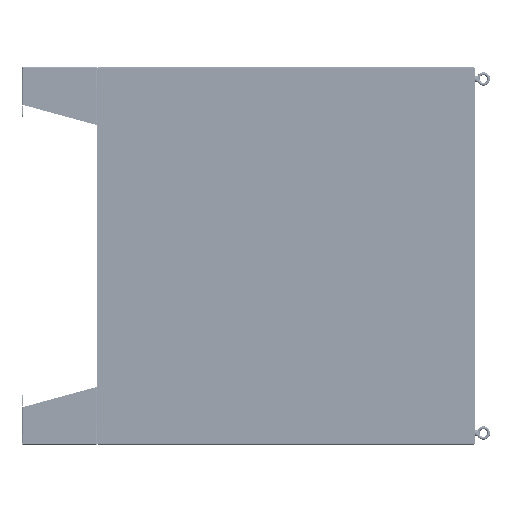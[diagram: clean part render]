
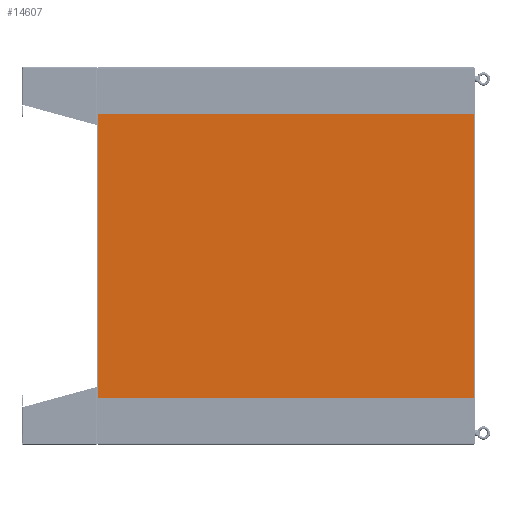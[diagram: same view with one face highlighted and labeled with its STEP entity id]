
A CAD part, left-side view. The second image highlights one B-rep face of the part: STEP entity #14607.
In plain terms, the highlighted planar face has unit normal (-1, 0, 0) as drawn and (0, 1, 0) by its records, which use the part's own axes.
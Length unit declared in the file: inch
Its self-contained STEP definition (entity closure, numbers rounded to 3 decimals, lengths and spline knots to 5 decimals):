
#14268=CARTESIAN_POINT('',(22.47,0.,29.866));
#14269=DIRECTION('',(0.,1.,0.));
#14270=DIRECTION('',(0.,0.,1.));
#14271=AXIS2_PLACEMENT_3D('',#14268,#14269,#14270);
#14276=CARTESIAN_POINT('',(-22.47,0.,29.866));
#14277=DIRECTION('',(0.,1.,0.));
#14278=DIRECTION('',(-1.,0.,0.));
#14279=AXIS2_PLACEMENT_3D('',#14276,#14277,#14278);
#14284=CARTESIAN_POINT('',(-22.47,0.,-29.866));
#14285=DIRECTION('',(0.,1.,0.));
#14286=DIRECTION('',(0.,0.,-1.));
#14287=AXIS2_PLACEMENT_3D('',#14284,#14285,#14286);
#14292=CARTESIAN_POINT('',(22.47,0.,-29.866));
#14293=DIRECTION('',(0.,1.,0.));
#14294=DIRECTION('',(1.,0.,0.));
#14295=AXIS2_PLACEMENT_3D('',#14292,#14293,#14294);
#14300=DIRECTION('',(0.,0.,-1.));
#14301=VECTOR('',#14300,59.732);
#14302=CARTESIAN_POINT('',(22.5,0.,29.866));
#14303=LINE('',#14302,#14301);
#14328=DIRECTION('',(-1.,0.,0.));
#14329=VECTOR('',#14328,44.94);
#14330=CARTESIAN_POINT('',(22.47,0.,-29.896));
#14331=LINE('',#14330,#14329);
#14370=DIRECTION('',(0.,0.,-1.));
#14371=VECTOR('',#14370,59.732);
#14372=CARTESIAN_POINT('',(-22.5,0.,29.866));
#14373=LINE('',#14372,#14371);
#14398=DIRECTION('',(-1.,0.,0.));
#14399=VECTOR('',#14398,44.94);
#14400=CARTESIAN_POINT('',(22.47,0.,29.896));
#14401=LINE('',#14400,#14399);
#14536=CARTESIAN_POINT('',(22.47,0.,29.896));
#14537=CARTESIAN_POINT('',(22.5,0.,29.866));
#14538=VERTEX_POINT('',#14536);
#14539=VERTEX_POINT('',#14537);
#14544=CARTESIAN_POINT('',(-22.5,0.,29.866));
#14545=CARTESIAN_POINT('',(-22.47,0.,29.896));
#14546=VERTEX_POINT('',#14544);
#14547=VERTEX_POINT('',#14545);
#14552=CARTESIAN_POINT('',(22.5,0.,-29.866));
#14553=CARTESIAN_POINT('',(22.47,0.,-29.896));
#14554=VERTEX_POINT('',#14552);
#14555=VERTEX_POINT('',#14553);
#14560=CARTESIAN_POINT('',(-22.47,0.,-29.896));
#14561=CARTESIAN_POINT('',(-22.5,0.,-29.866));
#14562=VERTEX_POINT('',#14560);
#14563=VERTEX_POINT('',#14561);
#14584=CARTESIAN_POINT('',(22.5,0.,29.896));
#14585=DIRECTION('',(0.,1.,0.));
#14586=DIRECTION('',(-1.,0.,0.));
#14587=AXIS2_PLACEMENT_3D('',#14584,#14585,#14586);
#14588=PLANE('',#14587);
#14590=ORIENTED_EDGE('',*,*,#14589,.F.);
#14592=ORIENTED_EDGE('',*,*,#14591,.T.);
#14594=ORIENTED_EDGE('',*,*,#14593,.F.);
#14596=ORIENTED_EDGE('',*,*,#14595,.T.);
#14598=ORIENTED_EDGE('',*,*,#14597,.F.);
#14600=ORIENTED_EDGE('',*,*,#14599,.F.);
#14602=ORIENTED_EDGE('',*,*,#14601,.F.);
#14604=ORIENTED_EDGE('',*,*,#14603,.F.);
#14605=EDGE_LOOP('',(#14590,#14592,#14594,#14596,#14598,#14600,#14602,#14604));
#14606=FACE_OUTER_BOUND('',#14605,.F.);
#14272=CIRCLE('',#14271,0.03);
#14280=CIRCLE('',#14279,0.03);
#14288=CIRCLE('',#14287,0.03);
#14296=CIRCLE('',#14295,0.03);
#14589=EDGE_CURVE('',#14538,#14539,#14272,.T.);
#14591=EDGE_CURVE('',#14538,#14547,#14401,.T.);
#14593=EDGE_CURVE('',#14546,#14547,#14280,.T.);
#14595=EDGE_CURVE('',#14546,#14563,#14373,.T.);
#14597=EDGE_CURVE('',#14562,#14563,#14288,.T.);
#14599=EDGE_CURVE('',#14555,#14562,#14331,.T.);
#14601=EDGE_CURVE('',#14554,#14555,#14296,.T.);
#14603=EDGE_CURVE('',#14539,#14554,#14303,.T.);
#14607=ADVANCED_FACE('',(#14606),#14588,.T.);
